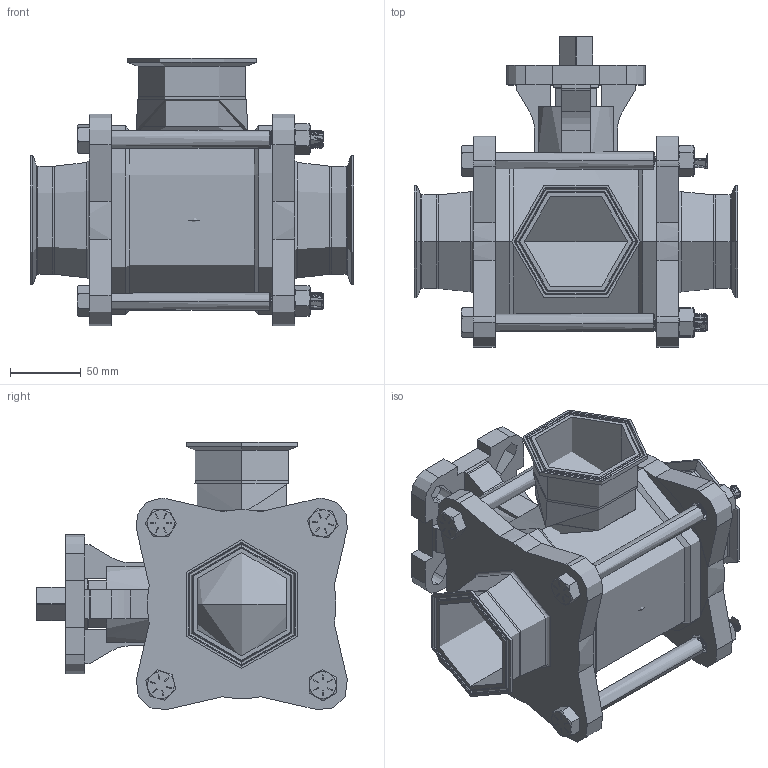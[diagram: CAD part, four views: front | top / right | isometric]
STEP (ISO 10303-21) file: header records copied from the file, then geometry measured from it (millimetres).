
FILE_DESCRIPTION (( 'STEP AP203' ), '1' );
FILE_NAME ('STC-24TL.STEP', '2021-07-02T19:29:02', ( 'Owner' ), ( '' ), 'SwSTEP 2.0', 'SolidWorks 2017', '' );
FILE_SCHEMA (( 'CONFIG_CONTROL_DESIGN' ));
Length unit declared in the file: inch
Products named in the file (21): STC-24TL-STEM; STC-24TL-BALL; 1-2_20x6-1_2; STC-24TL; 1-2_20-nut; STC-24T-BODY; STC-24T-ENDCAP; 1-2_20x6-1_2_91257A490; 1-2_20-nut_91845A145
Assembly tree (21 placements, depth 2):
  STC-24TL-BALL
  STC-24TL
    STC-24T-BODY
    STC-24T-ENDCAP  x2
    1-2_20x6-1_2_91257A490  x4
    1-2_20-nut_91845A145  x4
    STC-24TL-BALL
    STC-24TL-STEM
  STC-24TL-STEM
  STC-24T-BODY
  STC-24TL
    1-2_20x6-1_2
    1-2_20x6-1_2
    1-2_20-nut
    1-2_20-nut
    1-2_20x6-1_2
    1-2_20-nut
    1-2_20x6-1_2
    1-2_20-nut
Bounding box: 228.6 x 219.26 x 188.78 mm (x, y, z)
Volume: 1522057 mm3; surface area: 394734.9 mm2
Topology: 14 solids, 14 shells, 1000 faces, 2626 edges, 1693 vertices
Faces by surface type: cylinder 496, plane 272, cone 161, torus 44, bspline 24, sphere 3
Entity records: 25404 total; most frequent: CARTESIAN_POINT 12559, ORIENTED_EDGE 2292, DIRECTION 2197, EDGE_CURVE 1146, AXIS2_PLACEMENT_3D 825, VERTEX_POINT 729, VECTOR 547, LINE 547
